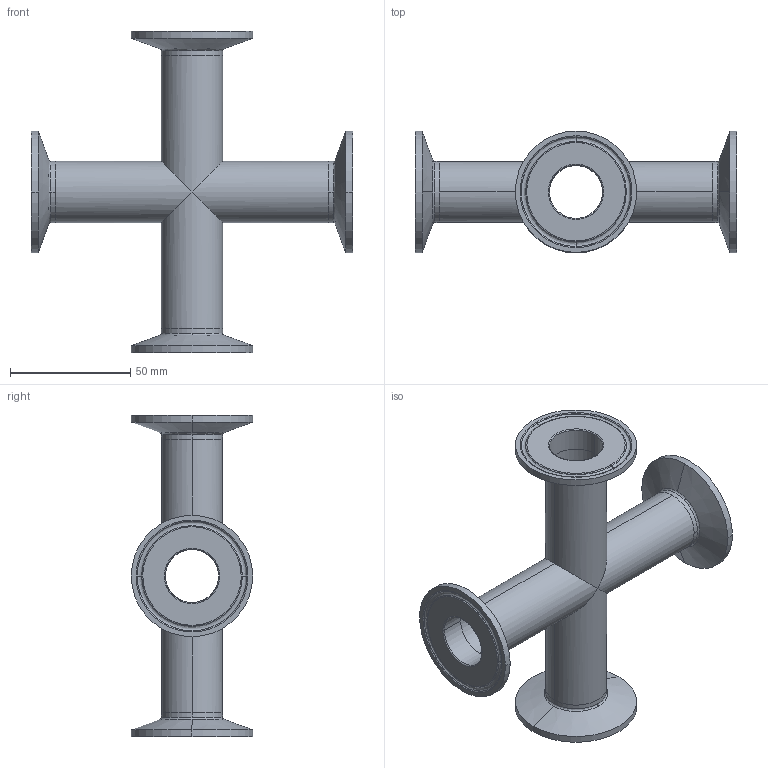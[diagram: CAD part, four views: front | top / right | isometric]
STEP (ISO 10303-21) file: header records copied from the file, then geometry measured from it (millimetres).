
FILE_DESCRIPTION (( 'STEP AP214' ), '1' );
FILE_NAME ('TEG96L1.0-...STEP', '2016-05-22T05:36:56', ( 'eran' ), ( '' ), 'SwSTEP 2.0', 'SolidWorks 2016', '' );
FILE_SCHEMA (( 'AUTOMOTIVE_DESIGN' ));
Length unit declared in the file: millimetre
Products named in the file (1): TEG96L1.0-..
Bounding box: 133.35 x 50.39 x 133.35 mm (x, y, z)
Volume: 57401.1 mm3; surface area: 48680 mm2
Topology: 5 solids, 5 shells, 120 faces, 304 edges, 196 vertices
Faces by surface type: cylinder 40, bspline 40, cone 24, plane 16
Entity records: 5798 total; most frequent: CARTESIAN_POINT 2877, DIRECTION 626, ORIENTED_EDGE 608, EDGE_CURVE 304, AXIS2_PLACEMENT_3D 281, CIRCLE 200, VERTEX_POINT 196, EDGE_LOOP 136
